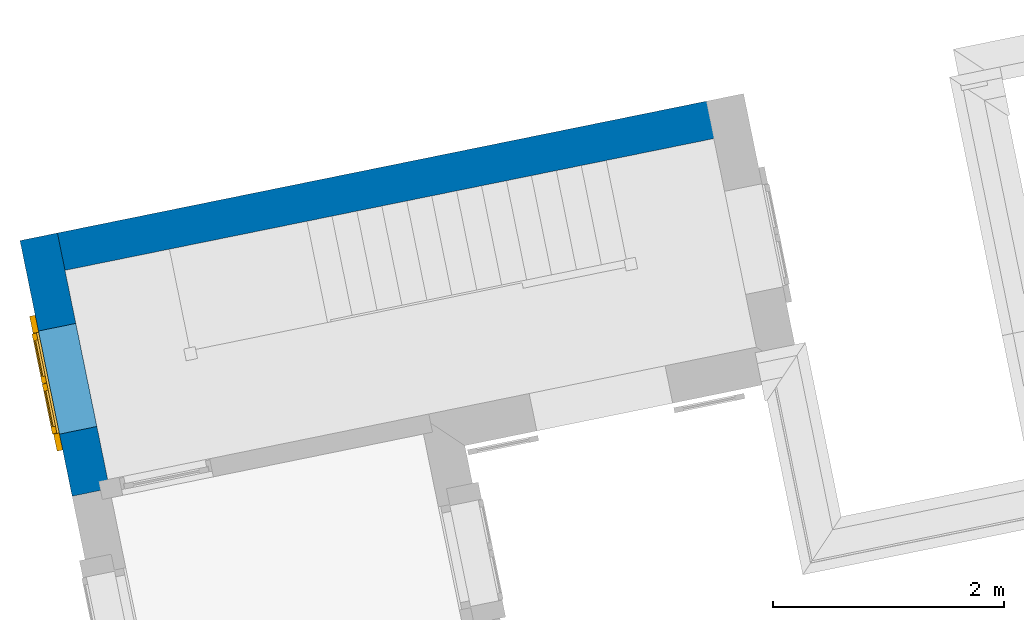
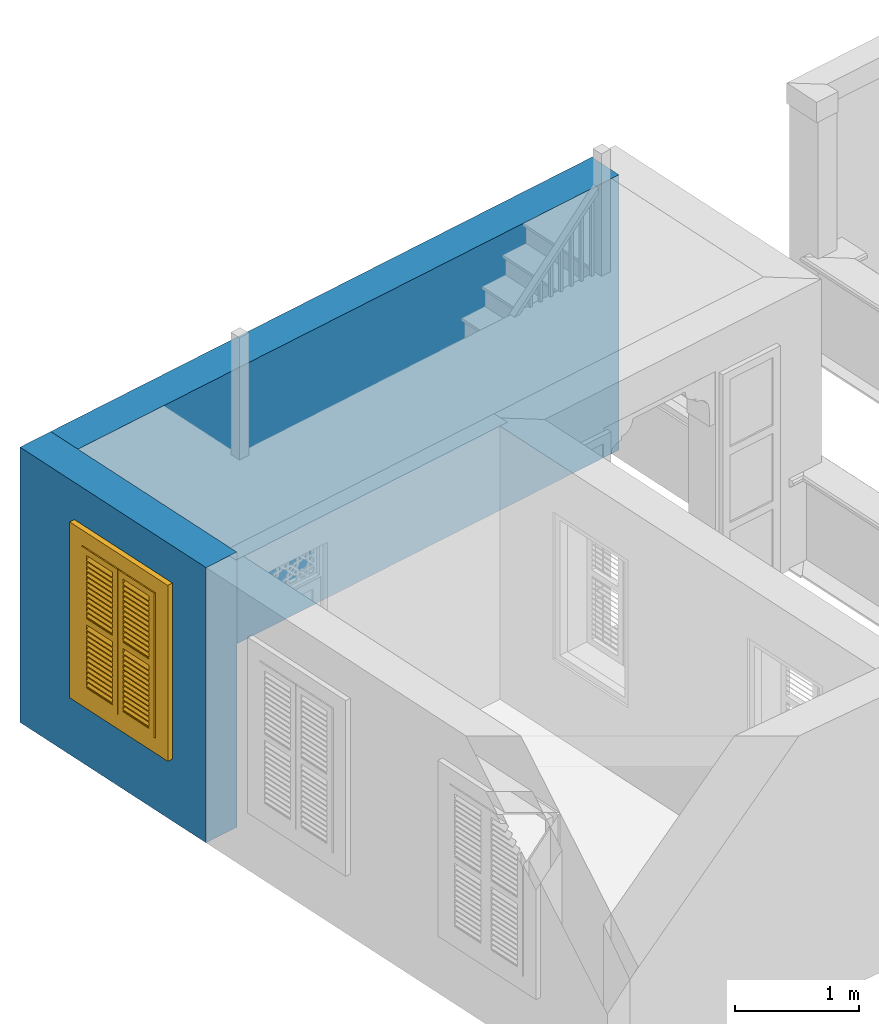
# One storey, part 4 of 7: 2 walls, 1 window, 1 opening.
"""IFC4 building model written with IfcOpenShell, lengths in metres."""

from ifc_helpers import new_model, si_unit, frame, origin, origin_with_axes, place, context, subcontext, project, spatial, polyline, outline, extrude, faceted_brep, source, transform, mapped, material, layer, layer_set, layer_usage, type_object, type_shapes, element, fill, save


model = new_model("IFC4")

# Units and contexts
model_context = context("Model", 3, world=origin_with_axes())
body_context = subcontext(model_context, "Body", "Model", "MODEL_VIEW")
ifc_project = project(units=[si_unit("PLANEANGLEUNIT", "RADIAN"), si_unit("MASSUNIT", "GRAM", prefix="KILO"), si_unit("FORCEUNIT", "NEWTON", prefix="KILO"), si_unit("LENGTHUNIT", "METRE"), si_unit("AREAUNIT", "SQUARE_METRE"), si_unit("VOLUMEUNIT", "CUBIC_METRE")], contexts=[model_context, model_context])

# Site, building, storey
site_placement = place(None, origin_with_axes())
site = spatial("IfcSite", under=ifc_project, at=site_placement, Name="Site plot-7", CompositionType="ELEMENT")
building_placement = place(None, origin_with_axes())
building = spatial("IfcBuilding", under=site, at=building_placement, Name="Building plot-7", CompositionType="ELEMENT")
storey_placement = place(None, frame((0.0, 0.0, 3.0), z_axis=(0.0, 0.0, 1.0), x_axis=(1.0, 0.0, 0.0)))
storey = spatial("IfcBuildingStorey", under=building, at=storey_placement, Name="plot-7 1", CompositionType="ELEMENT", Elevation=3.0)

# Wall, opening, window
ifc_material_1 = material(Name="Masonry")
ifc_layer_1 = layer(ifc_material_1, 0.33, ventilated=False)
ifc_layer_set_1 = layer_set([ifc_layer_1], Name="exterior_0.08_0.25")
ifc_layer_usage_1 = layer_usage(ifc_layer_set_1, "AXIS2", "POSITIVE", -0.25)
wall_type_1 = type_object("IfcWallType", Name="exterior_0.08_0.25", PredefinedType="SOLIDWALL", material=ifc_layer_set_1)
wall_1_placement = place(storey_placement, frame((-12.3516088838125, 10.9736854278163, 0.0), z_axis=(0.0, 0.0, 1.0), x_axis=(0.199943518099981, -0.979807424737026, 0.0)))
wall_1 = element("IfcWall", 1, at=wall_1_placement, inside=storey, type_object=wall_type_1, material=ifc_layer_usage_1, Name="exterior", context=body_context, shape_type="SweptSolid", body=[
    extrude(outline(polyline([(-0.249999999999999, 0.0800000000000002), (-0.25, -0.249999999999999), (2.00604607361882, -0.25), (2.00604607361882, 0.0799999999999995), (-0.249999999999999, 0.0800000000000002)])), origin_with_axes(), (0.0, 0.0, 1.0), 2.7),
])
opening_placement = place(wall_1_placement, frame((0.54802303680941, 0.0, 0.75)))
opening = element("IfcOpeningElement", 2, at=opening_placement, cuts=wall_1, Name="My Opening", ObjectType="Opening", context=body_context, shape_type="SweptSolid", body=[
    extrude(outline(polyline([(0.0, -0.27), (0.910000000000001, -0.269999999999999), (0.91, 1.1), (-3.33066907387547e-16, 1.1), (0.0, -0.27)])), origin_with_axes(), (0.0, 0.0, 1.0), 1.445),
])
window_type = type_object("IfcWindowType", Name="shuttered_shorter", PartitioningType="DOUBLE_PANEL_HORIZONTAL", PredefinedType="NOTDEFINED")
shared_shape = source(origin(), body_context, "Body", "Brep", [
    faceted_brep([(0.393, 0.0, 0.622), (0.074, 0.0, 0.622), (0.074, 0.0, 0.632), (0.393, 0.0, 0.632), (0.074, -0.04, 0.592), (0.393, -0.04, 0.592), (0.393, -0.04, 0.582), (0.074, -0.04, 0.582), (0.517, 0.0, 0.682), (0.836, 0.0, 0.682), (0.836, 0.0, 0.672), (0.517, 0.0, 0.672), (0.517, -0.04, 0.642), (0.836, -0.04, 0.642), (0.836, -0.04, 0.632), (0.517, -0.04, 0.632), (0.517, 0.0, 0.632), (0.836, 0.0, 0.632), (0.836, 0.0, 0.622), (0.517, 0.0, 0.622), (0.517, -0.04, 0.592), (0.836, -0.04, 0.592), (0.836, -0.04, 0.582), (0.517, -0.04, 0.582), (0.517, 0.0, 0.232), (0.836, 0.0, 0.232), (0.836, 0.0, 0.222), (0.517, 0.0, 0.222), (0.517, -0.04, 0.192), (0.836, -0.04, 0.192), (0.836, -0.04, 0.182), (0.517, -0.04, 0.182), (0.517, 0.0, 0.532), (0.836, 0.0, 0.532), (0.836, 0.0, 0.522), (0.517, 0.0, 0.522), (0.517, -0.04, 0.492), (0.836, -0.04, 0.492), (0.836, -0.04, 0.482), (0.517, -0.04, 0.482), (0.517, 0.0, 0.482), (0.836, 0.0, 0.482), (0.836, 0.0, 0.472), (0.517, 0.0, 0.472), (0.517, -0.04, 0.442), (0.836, -0.04, 0.442), (0.836, -0.04, 0.432), (0.517, -0.04, 0.432), (0.517, 0.0, 0.582), (0.836, 0.0, 0.582), (0.836, 0.0, 0.572), (0.517, 0.0, 0.572), (0.517, -0.04, 0.542), (0.836, -0.04, 0.542), (0.836, -0.04, 0.532), (0.517, -0.04, 0.532), (0.517, 0.0, 0.182), (0.836, 0.0, 0.182), (0.836, 0.0, 0.172), (0.517, 0.0, 0.172), (0.517, -0.04, 0.142), (0.836, -0.04, 0.142), (0.836, -0.04, 0.132), (0.517, -0.04, 0.132), (0.517, 0.0, 0.382), (0.836, 0.0, 0.382), (0.836, 0.0, 0.372), (0.517, 0.0, 0.372), (0.517, -0.04, 0.342), (0.836, -0.04, 0.342), (0.836, -0.04, 0.332), (0.517, -0.04, 0.332), (0.517, 0.0, 0.432), (0.836, 0.0, 0.432), (0.836, 0.0, 0.422), (0.517, 0.0, 0.422), (0.517, -0.04, 0.392), (0.836, -0.04, 0.392), (0.836, -0.04, 0.382), (0.517, -0.04, 0.382), (0.517, 0.0, 0.132), (0.836, 0.0, 0.132), (0.836, 0.0, 0.122), (0.517, 0.0, 0.122), (0.517, -0.04, 0.092), (0.836, -0.04, 0.092), (0.836, -0.04, 0.082), (0.517, -0.04, 0.082), (0.517, 0.0, 0.282), (0.836, 0.0, 0.282), (0.836, 0.0, 0.272), (0.517, 0.0, 0.272), (0.517, -0.04, 0.242), (0.836, -0.04, 0.242), (0.836, -0.04, 0.232), (0.517, -0.04, 0.232), (0.517, 0.0, 0.332), (0.836, 0.0, 0.332), (0.836, 0.0, 0.322), (0.517, 0.0, 0.322), (0.517, -0.04, 0.292), (0.836, -0.04, 0.292), (0.836, -0.04, 0.282), (0.517, -0.04, 0.282), (0.517, 0.0, 1.362667), (0.836, 0.0, 1.362667), (0.836, 0.0, 1.352667), (0.517, 0.0, 1.352667), (0.517, -0.04, 1.322667), (0.836, -0.04, 1.322667), (0.836, -0.04, 1.312667), (0.517, -0.04, 1.312667), (0.517, 0.0, 1.312667), (0.836, 0.0, 1.312667), (0.836, 0.0, 1.302667), (0.517, 0.0, 1.302667), (0.517, -0.04, 1.272667), (0.836, -0.04, 1.272667), (0.836, -0.04, 1.262667), (0.517, -0.04, 1.262667), (0.517, 0.0, 0.912667), (0.836, 0.0, 0.912667), (0.836, 0.0, 0.902667), (0.517, 0.0, 0.902667), (0.517, -0.04, 0.872667), (0.836, -0.04, 0.872667), (0.836, -0.04, 0.862667), (0.517, -0.04, 0.862667), (0.517, 0.0, 1.212667), (0.836, 0.0, 1.212667), (0.836, 0.0, 1.202667), (0.517, 0.0, 1.202667), (0.517, -0.04, 1.172667), (0.836, -0.04, 1.172667), (0.836, -0.04, 1.162667), (0.517, -0.04, 1.162667), (0.517, 0.0, 1.162667), (0.836, 0.0, 1.162667), (0.836, 0.0, 1.152667), (0.517, 0.0, 1.152667), (0.517, -0.04, 1.122667), (0.836, -0.04, 1.122667), (0.836, -0.04, 1.112667), (0.517, -0.04, 1.112667), (0.517, 0.0, 1.262667), (0.836, 0.0, 1.262667), (0.836, 0.0, 1.252667), (0.517, 0.0, 1.252667), (0.517, -0.04, 1.222667), (0.836, -0.04, 1.222667), (0.836, -0.04, 1.212667), (0.517, -0.04, 1.212667), (0.517, 0.0, 0.862667), (0.836, 0.0, 0.862667), (0.836, 0.0, 0.852667), (0.517, 0.0, 0.852667), (0.517, -0.04, 0.822667), (0.836, -0.04, 0.822667), (0.836, -0.04, 0.812667), (0.517, -0.04, 0.812667), (0.517, 0.0, 1.062667), (0.836, 0.0, 1.062667), (0.836, 0.0, 1.052667), (0.517, 0.0, 1.052667), (0.517, -0.04, 1.022667), (0.836, -0.04, 1.022667), (0.836, -0.04, 1.012667), (0.517, -0.04, 1.012667), (0.517, 0.0, 1.112667), (0.836, 0.0, 1.112667), (0.836, 0.0, 1.102667), (0.517, 0.0, 1.102667), (0.517, -0.04, 1.072667), (0.836, -0.04, 1.072667), (0.836, -0.04, 1.062667), (0.517, -0.04, 1.062667), (0.517, 0.0, 0.812667), (0.836, 0.0, 0.812667), (0.836, 0.0, 0.802667), (0.517, 0.0, 0.802667), (0.517, -0.04, 0.772667), (0.836, -0.04, 0.772667), (0.836, -0.04, 0.762667), (0.517, -0.04, 0.762667), (0.517, 0.0, 0.962667), (0.836, 0.0, 0.962667), (0.836, 0.0, 0.952667), (0.517, 0.0, 0.952667), (0.517, -0.04, 0.922667), (0.836, -0.04, 0.922667), (0.836, -0.04, 0.912667), (0.517, -0.04, 0.912667), (0.517, 0.0, 1.012667), (0.836, 0.0, 1.012667), (0.836, 0.0, 1.002667), (0.517, 0.0, 1.002667), (0.517, -0.04, 0.972667), (0.836, -0.04, 0.972667), (0.836, -0.04, 0.962667), (0.517, -0.04, 0.962667), (0.074, 0.0, 0.682), (0.393, 0.0, 0.682), (0.393, 0.0, 0.672), (0.074, 0.0, 0.672), (0.074, -0.04, 0.642), (0.393, -0.04, 0.642), (0.393, -0.04, 0.632), (0.074, -0.04, 0.632), (0.074, 0.0, 0.232), (0.393, 0.0, 0.232), (0.393, 0.0, 0.222), (0.074, 0.0, 0.222), (0.074, -0.04, 0.192), (0.393, -0.04, 0.192), (0.393, -0.04, 0.182), (0.074, -0.04, 0.182), (0.074, 0.0, 0.532), (0.393, 0.0, 0.532), (0.393, 0.0, 0.522), (0.074, 0.0, 0.522), (0.074, -0.04, 0.492), (0.393, -0.04, 0.492), (0.393, -0.04, 0.482), (0.074, -0.04, 0.482), (0.074, 0.0, 0.482), (0.393, 0.0, 0.482), (0.393, 0.0, 0.472), (0.074, 0.0, 0.472), (0.074, -0.04, 0.442), (0.393, -0.04, 0.442), (0.393, -0.04, 0.432), (0.074, -0.04, 0.432), (0.074, 0.0, 0.582), (0.393, 0.0, 0.582), (0.393, 0.0, 0.572), (0.074, 0.0, 0.572), (0.074, -0.04, 0.542), (0.393, -0.04, 0.542), (0.393, -0.04, 0.532), (0.074, -0.04, 0.532), (0.074, 0.0, 0.182), (0.393, 0.0, 0.182), (0.393, 0.0, 0.172), (0.074, 0.0, 0.172), (0.074, -0.04, 0.142), (0.393, -0.04, 0.142), (0.393, -0.04, 0.132), (0.074, -0.04, 0.132), (0.074, 0.0, 0.382), (0.393, 0.0, 0.382), (0.393, 0.0, 0.372), (0.074, 0.0, 0.372), (0.074, -0.04, 0.342), (0.393, -0.04, 0.342), (0.393, -0.04, 0.332), (0.074, -0.04, 0.332), (0.074, 0.0, 0.432), (0.393, 0.0, 0.432), (0.393, 0.0, 0.422), (0.074, 0.0, 0.422), (0.074, -0.04, 0.392), (0.393, -0.04, 0.392), (0.393, -0.04, 0.382), (0.074, -0.04, 0.382), (0.074, 0.0, 0.132), (0.393, 0.0, 0.132), (0.393, 0.0, 0.122), (0.074, 0.0, 0.122), (0.074, -0.04, 0.092), (0.393, -0.04, 0.092), (0.393, -0.04, 0.082), (0.074, -0.04, 0.082), (0.074, 0.0, 0.282), (0.393, 0.0, 0.282), (0.393, 0.0, 0.272), (0.074, 0.0, 0.272), (0.074, -0.04, 0.242), (0.393, -0.04, 0.242), (0.393, -0.04, 0.232), (0.074, -0.04, 0.232), (0.074, 0.0, 0.332), (0.393, 0.0, 0.332), (0.393, 0.0, 0.322), (0.074, 0.0, 0.322), (0.074, -0.04, 0.292), (0.393, -0.04, 0.292), (0.393, -0.04, 0.282), (0.074, -0.04, 0.282), (0.074, 0.0, 1.362667), (0.393, 0.0, 1.362667), (0.393, 0.0, 1.352667), (0.074, 0.0, 1.352667), (0.074, -0.04, 1.322667), (0.393, -0.04, 1.322667), (0.393, -0.04, 1.312667), (0.074, -0.04, 1.312667), (0.074, 0.0, 1.312667), (0.393, 0.0, 1.312667), (0.393, 0.0, 1.302667), (0.074, 0.0, 1.302667), (0.074, -0.04, 1.272667), (0.393, -0.04, 1.272667), (0.393, -0.04, 1.262667), (0.074, -0.04, 1.262667), (0.074, 0.0, 0.912667), (0.393, 0.0, 0.912667), (0.393, 0.0, 0.902667), (0.074, 0.0, 0.902667), (0.074, -0.04, 0.872667), (0.393, -0.04, 0.872667), (0.393, -0.04, 0.862667), (0.074, -0.04, 0.862667), (0.074, 0.0, 1.212667), (0.393, 0.0, 1.212667), (0.393, 0.0, 1.202667), (0.074, 0.0, 1.202667), (0.074, -0.04, 1.172667), (0.393, -0.04, 1.172667), (0.393, -0.04, 1.162667), (0.074, -0.04, 1.162667), (0.074, 0.0, 1.162667), (0.393, 0.0, 1.162667), (0.393, 0.0, 1.152667), (0.074, 0.0, 1.152667), (0.074, -0.04, 1.122667), (0.393, -0.04, 1.122667), (0.393, -0.04, 1.112667), (0.074, -0.04, 1.112667), (0.074, 0.0, 1.262667), (0.393, 0.0, 1.262667), (0.393, 0.0, 1.252667), (0.074, 0.0, 1.252667), (0.074, -0.04, 1.222667), (0.393, -0.04, 1.222667), (0.393, -0.04, 1.212667), (0.074, -0.04, 1.212667), (0.074, 0.0, 0.862667), (0.393, 0.0, 0.862667), (0.393, 0.0, 0.852667), (0.074, 0.0, 0.852667), (0.074, -0.04, 0.822667), (0.393, -0.04, 0.822667), (0.393, -0.04, 0.812667), (0.074, -0.04, 0.812667), (0.074, 0.0, 1.062667), (0.393, 0.0, 1.062667), (0.393, 0.0, 1.052667), (0.074, 0.0, 1.052667), (0.074, -0.04, 1.022667), (0.393, -0.04, 1.022667), (0.393, -0.04, 1.012667), (0.074, -0.04, 1.012667), (0.074, 0.0, 1.112667), (0.393, 0.0, 1.112667), (0.393, 0.0, 1.102667), (0.074, 0.0, 1.102667), (0.074, -0.04, 1.072667), (0.393, -0.04, 1.072667), (0.393, -0.04, 1.062667), (0.074, -0.04, 1.062667), (0.074, 0.0, 0.812667), (0.393, 0.0, 0.812667), (0.393, 0.0, 0.802667), (0.074, 0.0, 0.802667), (0.074, -0.04, 0.772667), (0.393, -0.04, 0.772667), (0.393, -0.04, 0.762667), (0.074, -0.04, 0.762667), (0.074, 0.0, 0.962667), (0.393, 0.0, 0.962667), (0.393, 0.0, 0.952667), (0.074, 0.0, 0.952667), (0.074, -0.04, 0.922667), (0.393, -0.04, 0.922667), (0.393, -0.04, 0.912667), (0.074, -0.04, 0.912667), (0.074, 0.0, 1.012667), (0.393, 0.0, 1.012667), (0.393, 0.0, 1.002667), (0.074, 0.0, 1.002667), (0.074, -0.04, 0.972667), (0.393, -0.04, 0.972667), (0.393, -0.04, 0.962667), (0.074, -0.04, 0.962667), (0.517, -0.04, 0.072), (0.457, -0.04, 0.012), (0.896, -0.04, 0.012), (0.836, -0.04, 0.072), (0.457, -0.04, 0.692667), (0.517, -0.04, 0.692667), (0.457, 0.0, 0.012), (0.896, 0.0, 0.012), (0.836, -0.04, 0.692667), (0.896, -0.04, 0.692667), (0.836, 0.0, 0.072), (0.517, 0.0, 0.072), (0.457, 0.0, 0.692667), (0.517, 0.0, 0.692667), (0.517, -0.04, 0.752666), (0.457, -0.04, 0.752666), (0.896, 0.0, 0.692667), (0.836, 0.0, 0.692667), (0.836, -0.04, 0.752666), (0.896, -0.04, 0.752666), (0.457, 0.0, 0.752666), (0.457, -0.04, 1.433333), (0.517, -0.04, 1.373333), (0.896, 0.0, 0.752666), (0.836, -0.04, 1.373333), (0.896, -0.04, 1.433333), (0.457, 0.0, 1.433333), (0.517, 0.0, 0.752666), (0.836, 0.0, 0.752666), (0.517, 0.0, 1.373333), (0.896, 0.0, 1.433333), (0.836, 0.0, 1.373333), (0.074, -0.04, 0.072), (0.014, -0.04, 0.012), (0.453, -0.04, 0.012), (0.393, -0.04, 0.072), (0.014, -0.04, 0.692667), (0.074, -0.04, 0.692667), (0.014, 0.0, 0.012), (0.453, 0.0, 0.012), (0.393, -0.04, 0.692667), (0.453, -0.04, 0.692667), (0.393, 0.0, 0.072), (0.074, 0.0, 0.072), (0.014, 0.0, 0.692667), (0.074, 0.0, 0.692667), (0.074, -0.04, 0.752666), (0.014, -0.04, 0.752666), (0.453, 0.0, 0.692667), (0.393, 0.0, 0.692667), (0.393, -0.04, 0.752666), (0.453, -0.04, 0.752666), (0.014, 0.0, 0.752666), (0.014, -0.04, 1.433333), (0.074, -0.04, 1.373333), (0.453, 0.0, 0.752666), (0.393, -0.04, 1.373333), (0.453, -0.04, 1.433333), (0.014, 0.0, 1.433333), (0.074, 0.0, 0.752666), (0.393, 0.0, 0.752666), (0.074, 0.0, 1.373333), (0.453, 0.0, 1.433333), (0.393, 0.0, 1.373333), (0.0, 0.33, 1.445), (0.91, 0.33, 1.445), (0.85, 0.33, 1.385), (0.06, 0.33, 1.385), (0.91, 0.25, 1.445), (0.0, 0.25, 1.445), (0.91, 0.25, 1.445), (0.85, 0.33, 0.06), (0.91, 0.33, 0.0), (0.85, 0.25, 1.385), (0.06, 0.25, 1.385), (0.0, 0.33, 0.0), (0.06, 0.33, 0.06), (0.0, 0.25, 0.0), (0.91, 0.25, 0.0), (0.85, 0.25, 0.06), (0.06, 0.25, 0.06), (1.05, 0.25, 1.585), (-0.14, 0.25, 1.585), (-0.14, -0.03, 1.585), (1.05, -0.03, 1.585), (0.9, -0.03, 1.435), (0.01, -0.03, 1.435), (0.01, 0.25, 1.435), (0.9, 0.25, 1.435), (0.9, 0.25, 0.01), (0.9, -0.03, 0.01), (1.05, -0.03, -0.14), (1.05, 0.25, -0.14), (0.01, -0.03, 0.01), (0.01, 0.25, 0.01), (-0.14, -0.03, -0.14), (-0.14, 0.25, -0.14)], [[[0, 1, 2, 3]], [[4, 5, 3, 2]], [[5, 6, 0, 3]], [[1, 0, 6, 7]], [[2, 1, 7, 4]], [[5, 4, 7, 6]], [[8, 9, 10, 11]], [[12, 13, 9, 8]], [[13, 14, 10, 9]], [[14, 15, 11, 10]], [[15, 12, 8, 11]], [[13, 12, 15, 14]], [[16, 17, 18, 19]], [[20, 21, 17, 16]], [[21, 22, 18, 17]], [[22, 23, 19, 18]], [[23, 20, 16, 19]], [[21, 20, 23, 22]], [[24, 25, 26, 27]], [[28, 29, 25, 24]], [[29, 30, 26, 25]], [[30, 31, 27, 26]], [[31, 28, 24, 27]], [[29, 28, 31, 30]], [[32, 33, 34, 35]], [[36, 37, 33, 32]], [[37, 38, 34, 33]], [[38, 39, 35, 34]], [[39, 36, 32, 35]], [[37, 36, 39, 38]], [[40, 41, 42, 43]], [[44, 45, 41, 40]], [[45, 46, 42, 41]], [[46, 47, 43, 42]], [[47, 44, 40, 43]], [[45, 44, 47, 46]], [[48, 49, 50, 51]], [[52, 53, 49, 48]], [[53, 54, 50, 49]], [[54, 55, 51, 50]], [[55, 52, 48, 51]], [[53, 52, 55, 54]], [[56, 57, 58, 59]], [[60, 61, 57, 56]], [[61, 62, 58, 57]], [[62, 63, 59, 58]], [[63, 60, 56, 59]], [[61, 60, 63, 62]], [[64, 65, 66, 67]], [[68, 69, 65, 64]], [[69, 70, 66, 65]], [[70, 71, 67, 66]], [[71, 68, 64, 67]], [[69, 68, 71, 70]], [[72, 73, 74, 75]], [[76, 77, 73, 72]], [[77, 78, 74, 73]], [[78, 79, 75, 74]], [[79, 76, 72, 75]], [[77, 76, 79, 78]], [[80, 81, 82, 83]], [[84, 85, 81, 80]], [[85, 86, 82, 81]], [[86, 87, 83, 82]], [[87, 84, 80, 83]], [[85, 84, 87, 86]], [[88, 89, 90, 91]], [[92, 93, 89, 88]], [[93, 94, 90, 89]], [[94, 95, 91, 90]], [[95, 92, 88, 91]], [[93, 92, 95, 94]], [[96, 97, 98, 99]], [[100, 101, 97, 96]], [[101, 102, 98, 97]], [[102, 103, 99, 98]], [[103, 100, 96, 99]], [[101, 100, 103, 102]], [[104, 105, 106, 107]], [[108, 109, 105, 104]], [[109, 110, 106, 105]], [[110, 111, 107, 106]], [[111, 108, 104, 107]], [[109, 108, 111, 110]], [[112, 113, 114, 115]], [[116, 117, 113, 112]], [[117, 118, 114, 113]], [[118, 119, 115, 114]], [[119, 116, 112, 115]], [[117, 116, 119, 118]], [[120, 121, 122, 123]], [[124, 125, 121, 120]], [[125, 126, 122, 121]], [[126, 127, 123, 122]], [[127, 124, 120, 123]], [[125, 124, 127, 126]], [[128, 129, 130, 131]], [[132, 133, 129, 128]], [[133, 134, 130, 129]], [[134, 135, 131, 130]], [[135, 132, 128, 131]], [[133, 132, 135, 134]], [[136, 137, 138, 139]], [[140, 141, 137, 136]], [[141, 142, 138, 137]], [[142, 143, 139, 138]], [[139, 143, 140, 136]], [[141, 140, 143, 142]], [[144, 145, 146, 147]], [[148, 149, 145, 144]], [[149, 150, 146, 145]], [[150, 151, 147, 146]], [[151, 148, 144, 147]], [[149, 148, 151, 150]], [[152, 153, 154, 155]], [[156, 157, 153, 152]], [[157, 158, 154, 153]], [[158, 159, 155, 154]], [[159, 156, 152, 155]], [[157, 156, 159, 158]], [[160, 161, 162, 163]], [[164, 165, 161, 160]], [[165, 166, 162, 161]], [[166, 167, 163, 162]], [[167, 164, 160, 163]], [[165, 164, 167, 166]], [[168, 169, 170, 171]], [[172, 173, 169, 168]], [[173, 174, 170, 169]], [[174, 175, 171, 170]], [[175, 172, 168, 171]], [[173, 172, 175, 174]], [[176, 177, 178, 179]], [[180, 181, 177, 176]], [[181, 182, 178, 177]], [[182, 183, 179, 178]], [[183, 180, 176, 179]], [[181, 180, 183, 182]], [[184, 185, 186, 187]], [[188, 189, 185, 184]], [[189, 190, 186, 185]], [[190, 191, 187, 186]], [[191, 188, 184, 187]], [[189, 188, 191, 190]], [[192, 193, 194, 195]], [[196, 197, 193, 192]], [[197, 198, 194, 193]], [[198, 199, 195, 194]], [[199, 196, 192, 195]], [[197, 196, 199, 198]], [[200, 201, 202, 203]], [[204, 205, 201, 200]], [[205, 206, 202, 201]], [[206, 207, 203, 202]], [[207, 204, 200, 203]], [[205, 204, 207, 206]], [[208, 209, 210, 211]], [[212, 213, 209, 208]], [[213, 214, 210, 209]], [[214, 215, 211, 210]], [[215, 212, 208, 211]], [[213, 212, 215, 214]], [[216, 217, 218, 219]], [[220, 221, 217, 216]], [[221, 222, 218, 217]], [[222, 223, 219, 218]], [[223, 220, 216, 219]], [[221, 220, 223, 222]], [[224, 225, 226, 227]], [[228, 229, 225, 224]], [[229, 230, 226, 225]], [[230, 231, 227, 226]], [[231, 228, 224, 227]], [[229, 228, 231, 230]], [[232, 233, 234, 235]], [[236, 237, 233, 232]], [[237, 238, 234, 233]], [[238, 239, 235, 234]], [[239, 236, 232, 235]], [[237, 236, 239, 238]], [[240, 241, 242, 243]], [[244, 245, 241, 240]], [[245, 246, 242, 241]], [[246, 247, 243, 242]], [[247, 244, 240, 243]], [[245, 244, 247, 246]], [[248, 249, 250, 251]], [[252, 253, 249, 248]], [[253, 254, 250, 249]], [[254, 255, 251, 250]], [[255, 252, 248, 251]], [[253, 252, 255, 254]], [[256, 257, 258, 259]], [[260, 261, 257, 256]], [[261, 262, 258, 257]], [[262, 263, 259, 258]], [[263, 260, 256, 259]], [[261, 260, 263, 262]], [[264, 265, 266, 267]], [[268, 269, 265, 264]], [[269, 270, 266, 265]], [[270, 271, 267, 266]], [[271, 268, 264, 267]], [[269, 268, 271, 270]], [[272, 273, 274, 275]], [[276, 277, 273, 272]], [[277, 278, 274, 273]], [[278, 279, 275, 274]], [[279, 276, 272, 275]], [[277, 276, 279, 278]], [[280, 281, 282, 283]], [[284, 285, 281, 280]], [[285, 286, 282, 281]], [[286, 287, 283, 282]], [[287, 284, 280, 283]], [[285, 284, 287, 286]], [[288, 289, 290, 291]], [[292, 293, 289, 288]], [[293, 294, 290, 289]], [[294, 295, 291, 290]], [[295, 292, 288, 291]], [[293, 292, 295, 294]], [[296, 297, 298, 299]], [[300, 301, 297, 296]], [[301, 302, 298, 297]], [[302, 303, 299, 298]], [[303, 300, 296, 299]], [[301, 300, 303, 302]], [[304, 305, 306, 307]], [[308, 309, 305, 304]], [[309, 310, 306, 305]], [[310, 311, 307, 306]], [[311, 308, 304, 307]], [[309, 308, 311, 310]], [[312, 313, 314, 315]], [[316, 317, 313, 312]], [[317, 318, 314, 313]], [[318, 319, 315, 314]], [[319, 316, 312, 315]], [[317, 316, 319, 318]], [[320, 321, 322, 323]], [[324, 325, 321, 320]], [[325, 326, 322, 321]], [[326, 327, 323, 322]], [[327, 324, 320, 323]], [[325, 324, 327, 326]], [[328, 329, 330, 331]], [[332, 333, 329, 328]], [[333, 334, 330, 329]], [[334, 335, 331, 330]], [[335, 332, 328, 331]], [[333, 332, 335, 334]], [[336, 337, 338, 339]], [[340, 341, 337, 336]], [[341, 342, 338, 337]], [[342, 343, 339, 338]], [[343, 340, 336, 339]], [[341, 340, 343, 342]], [[344, 345, 346, 347]], [[348, 349, 345, 344]], [[349, 350, 346, 345]], [[350, 351, 347, 346]], [[351, 348, 344, 347]], [[349, 348, 351, 350]], [[352, 353, 354, 355]], [[356, 357, 353, 352]], [[357, 358, 354, 353]], [[358, 359, 355, 354]], [[359, 356, 352, 355]], [[357, 356, 359, 358]], [[360, 361, 362, 363]], [[364, 365, 361, 360]], [[365, 366, 362, 361]], [[366, 367, 363, 362]], [[367, 364, 360, 363]], [[365, 364, 367, 366]], [[368, 369, 370, 371]], [[372, 373, 369, 368]], [[373, 374, 370, 369]], [[374, 375, 371, 370]], [[375, 372, 368, 371]], [[373, 372, 375, 374]], [[376, 377, 378, 379]], [[380, 381, 377, 376]], [[381, 382, 378, 377]], [[382, 383, 379, 378]], [[383, 380, 376, 379]], [[381, 380, 383, 382]], [[384, 385, 386, 387]], [[388, 385, 384, 389]], [[390, 391, 386, 385]], [[392, 387, 386, 393]], [[384, 387, 394, 395]], [[390, 385, 388, 396]], [[389, 384, 395, 397]], [[389, 398, 399, 388]], [[390, 395, 394, 391]], [[400, 393, 386, 391]], [[387, 392, 401, 394]], [[402, 392, 393, 403]], [[396, 388, 399, 404]], [[390, 396, 397, 395]], [[392, 389, 397, 401]], [[398, 389, 392, 402]], [[405, 399, 398, 406]], [[394, 401, 400, 391]], [[407, 403, 393, 400]], [[408, 402, 403, 409]], [[404, 399, 405, 410]], [[411, 397, 396, 404]], [[397, 411, 412, 401]], [[398, 402, 412, 411]], [[406, 398, 411, 413]], [[405, 406, 408, 409]], [[401, 412, 407, 400]], [[414, 409, 403, 407]], [[402, 408, 415, 412]], [[405, 409, 414, 410]], [[404, 410, 413, 411]], [[408, 406, 413, 415]], [[412, 415, 414, 407]], [[413, 410, 414, 415]], [[416, 417, 418, 419]], [[420, 417, 416, 421]], [[422, 423, 418, 417]], [[424, 419, 418, 425]], [[416, 419, 426, 427]], [[422, 417, 420, 428]], [[421, 416, 427, 429]], [[421, 430, 431, 420]], [[422, 427, 426, 423]], [[432, 425, 418, 423]], [[419, 424, 433, 426]], [[434, 424, 425, 435]], [[428, 420, 431, 436]], [[422, 428, 429, 427]], [[424, 421, 429, 433]], [[430, 421, 424, 434]], [[437, 431, 430, 438]], [[426, 433, 432, 423]], [[439, 435, 425, 432]], [[440, 434, 435, 441]], [[436, 431, 437, 442]], [[443, 429, 428, 436]], [[429, 443, 444, 433]], [[430, 434, 444, 443]], [[438, 430, 443, 445]], [[437, 438, 440, 441]], [[433, 444, 439, 432]], [[446, 441, 435, 439]], [[434, 440, 447, 444]], [[437, 441, 446, 442]], [[436, 442, 445, 443]], [[440, 438, 445, 447]], [[444, 447, 446, 439]], [[445, 442, 446, 447]], [[448, 449, 450, 451]], [[452, 449, 448]], [[448, 453, 454]], [[448, 454, 452]], [[455, 450, 449, 456]], [[451, 450, 457, 458]], [[459, 448, 451, 460]], [[448, 459, 461, 453]], [[454, 453, 458, 457]], [[462, 452, 454]], [[454, 457, 463]], [[454, 463, 462]], [[456, 449, 452, 462]], [[450, 455, 463, 457]], [[456, 459, 460, 455]], [[460, 451, 458, 464]], [[459, 456, 462, 461]], [[464, 458, 453, 461]], [[461, 462, 463, 464]], [[455, 460, 464, 463]], [[465, 466, 467, 468]], [[469, 470, 471, 472]], [[473, 474, 469, 472]], [[465, 468, 475, 476]], [[470, 477, 478, 471]], [[474, 473, 478, 477]], [[474, 477, 479, 475]], [[470, 467, 479, 477]], [[470, 469, 468, 467]], [[474, 475, 468, 469]], [[471, 478, 480, 466]], [[473, 472, 465, 476]], [[473, 476, 480, 478]], [[466, 465, 472, 471]], [[480, 476, 475, 479]], [[480, 479, 467, 466]]]),
])
type_shapes(window_type, [shared_shape])
window_placement = place(storey_placement, frame((-12.506583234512, 10.3827436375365, 0.75), z_axis=(0.0, 0.0, 1.0), x_axis=(0.181948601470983, -0.891624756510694, 0.0)))
window = element("IfcWindow", 3, at=window_placement, inside=storey, type_object=window_type, Name="circulation outside window", OverallHeight=1.445, OverallWidth=0.91, context=body_context, shape_type="MappedRepresentation", body=[
    mapped(shared_shape, transform((0.0, 0.0, 0.0), scale=1.0)),
])
fill(opening, window)

# Wall
ifc_material_2 = material(Name="Masonry")
ifc_layer_2 = layer(ifc_material_2, 0.33, ventilated=False)
ifc_layer_set_2 = layer_set([ifc_layer_2], Name="party_0.08_0.25")
ifc_layer_usage_2 = layer_usage(ifc_layer_set_2, "AXIS2", "POSITIVE", -0.25)
wall_type_2 = type_object("IfcWallType", Name="party_0.08_0.25", PredefinedType="SOLIDWALL", material=ifc_layer_set_2)
wall_2_placement = place(storey_placement, frame((-6.58443454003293, 12.1450346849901, 0.0), z_axis=(0.0, 0.0, 1.0), x_axis=(-0.979990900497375, -0.199042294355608, 0.0)))
element("IfcWall", 4, at=wall_2_placement, inside=storey, type_object=wall_type_2, material=ifc_layer_usage_2, Name="party", context=body_context, shape_type="SweptSolid", body=[
    extrude(outline(polyline([(-8.57500351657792e-17, 0.0800000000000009), (-4.28781124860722e-16, -0.25), (5.88492642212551, -0.25), (5.88492642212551, 0.0800000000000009), (-8.57500351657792e-17, 0.0800000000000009)])), origin_with_axes(), (0.0, 0.0, 1.0), 2.7),
])

save(model, "model.ifc")
